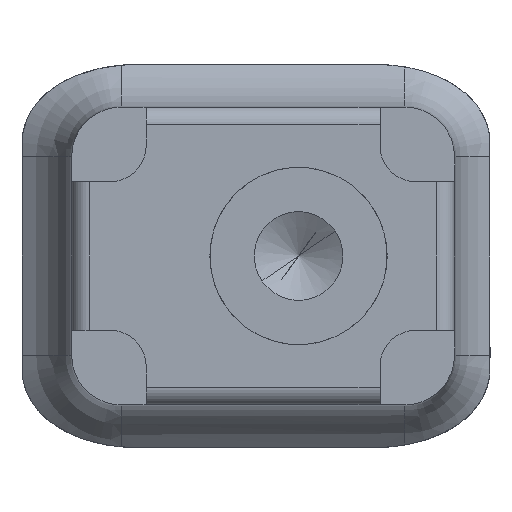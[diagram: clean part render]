
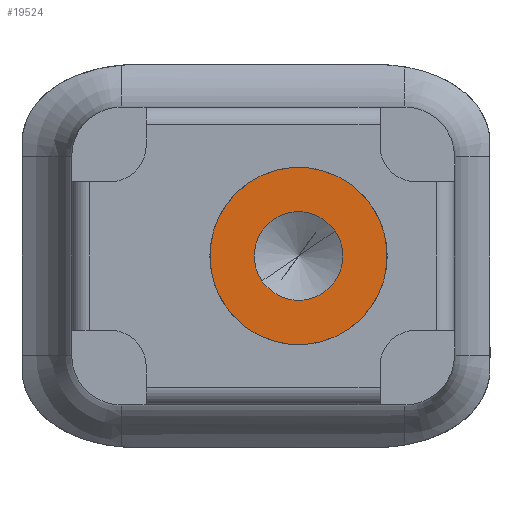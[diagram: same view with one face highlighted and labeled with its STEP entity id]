
A CAD part, front view. The second image highlights one B-rep face of the part: STEP entity #19524.
In plain terms, the highlighted planar face has unit normal (0, -1, 0) as drawn and (0, 0, -1) by its records, which use the part's own axes.
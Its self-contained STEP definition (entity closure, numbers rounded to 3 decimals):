
#877 = EDGE_CURVE ( 'NONE', #19608, #3386, #16255, .T. ) ;
#985 = ORIENTED_EDGE ( 'NONE', *, *, #10304, .F. ) ;
#1074 = VERTEX_POINT ( 'NONE', #17929 ) ;
#1324 = EDGE_LOOP ( 'NONE', ( #1582, #7753 ) ) ;
#1582 = ORIENTED_EDGE ( 'NONE', *, *, #14281, .F. ) ;
#1982 = DIRECTION ( 'NONE',  ( 0., 0., 1. ) ) ;
#2179 = CARTESIAN_POINT ( 'NONE',  ( 0., 0., 0. ) ) ;
#2203 = CARTESIAN_POINT ( 'NONE',  ( 0., 0., 0. ) ) ;
#2995 = DIRECTION ( 'NONE',  ( -1., 0., 0. ) ) ;
#3386 = VERTEX_POINT ( 'NONE', #16399 ) ;
#3930 = CARTESIAN_POINT ( 'NONE',  ( 0., 0., 0. ) ) ;
#4389 = AXIS2_PLACEMENT_3D ( 'NONE', #10562, #10437, #2995 ) ;
#6659 = ORIENTED_EDGE ( 'NONE', *, *, #21731, .F. ) ;
#7753 = ORIENTED_EDGE ( 'NONE', *, *, #877, .F. ) ;
#8584 = CARTESIAN_POINT ( 'NONE',  ( 0., 0., 0. ) ) ;
#9531 = CIRCLE ( 'NONE', #12293, 2.5 ) ;
#9696 = CARTESIAN_POINT ( 'NONE',  ( 1.25, 0., 0. ) ) ;
#10304 = EDGE_CURVE ( 'NONE', #1074, #19128, #16446, .T. ) ;
#10437 = DIRECTION ( 'NONE',  ( 0., 0., -1. ) ) ;
#10450 = FACE_BOUND ( 'NONE', #1324, .T. ) ;
#10562 = CARTESIAN_POINT ( 'NONE',  ( 0., 0., 0. ) ) ;
#11494 = DIRECTION ( 'NONE',  ( 0., 0., 1. ) ) ;
#12293 = AXIS2_PLACEMENT_3D ( 'NONE', #3930, #11494, #18566 ) ;
#13517 = CIRCLE ( 'NONE', #17853, 1.25 ) ;
#14281 = EDGE_CURVE ( 'NONE', #3386, #19608, #13517, .T. ) ;
#16147 = DIRECTION ( 'NONE',  ( 0., 0., 1. ) ) ;
#16255 = CIRCLE ( 'NONE', #4389, 1.25 ) ;
#16395 = PLANE ( 'NONE',  #24155 ) ;
#16399 = CARTESIAN_POINT ( 'NONE',  ( -1.25, 0., 0. ) ) ;
#16446 = CIRCLE ( 'NONE', #22774, 2.5 ) ;
#17853 = AXIS2_PLACEMENT_3D ( 'NONE', #2203, #20914, #22896 ) ;
#17929 = CARTESIAN_POINT ( 'NONE',  ( -2.5, 0., 0. ) ) ;
#18008 = FACE_OUTER_BOUND ( 'NONE', #22107, .T. ) ;
#18566 = DIRECTION ( 'NONE',  ( 1., 0., 0. ) ) ;
#19128 = VERTEX_POINT ( 'NONE', #20894 ) ;
#19524 = ADVANCED_FACE ( 'NONE', ( #10450, #18008 ), #16395, .F. ) ;
#19608 = VERTEX_POINT ( 'NONE', #9696 ) ;
#20894 = CARTESIAN_POINT ( 'NONE',  ( 2.5, 0., 0. ) ) ;
#20914 = DIRECTION ( 'NONE',  ( 0., 0., -1. ) ) ;
#20932 = DIRECTION ( 'NONE',  ( 1., 0., 0. ) ) ;
#21731 = EDGE_CURVE ( 'NONE', #19128, #1074, #9531, .T. ) ;
#22107 = EDGE_LOOP ( 'NONE', ( #985, #6659 ) ) ;
#22774 = AXIS2_PLACEMENT_3D ( 'NONE', #2179, #1982, #20932 ) ;
#22896 = DIRECTION ( 'NONE',  ( -1., 0., 0. ) ) ;
#23680 = DIRECTION ( 'NONE',  ( 1., 0., 0. ) ) ;
#24155 = AXIS2_PLACEMENT_3D ( 'NONE', #8584, #16147, #23680 ) ;
